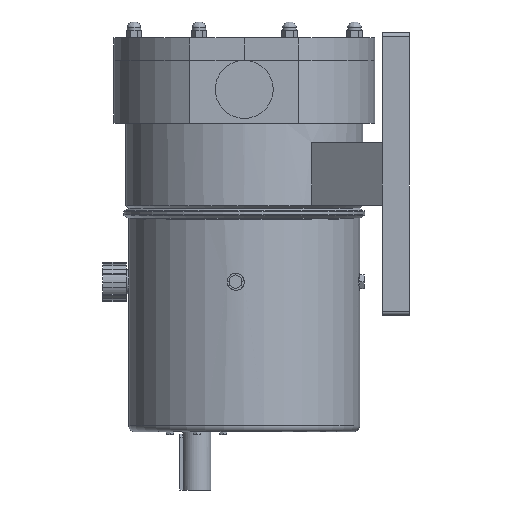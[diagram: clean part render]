
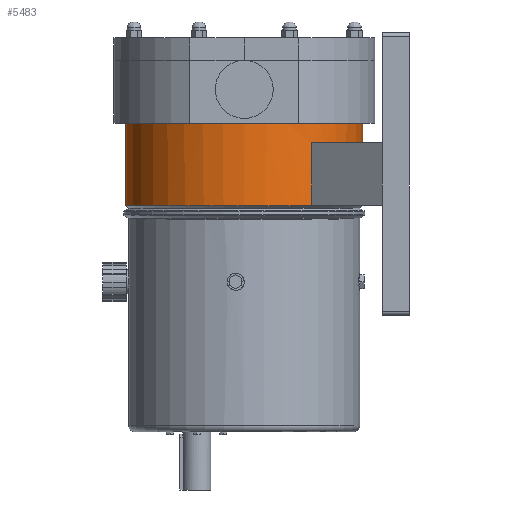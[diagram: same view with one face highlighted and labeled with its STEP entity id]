
A CAD part, left-side view. The second image highlights one B-rep face of the part: STEP entity #5483.
In plain terms, the highlighted cylindrical face has radius 210 mm (diameter 420 mm), a full revolution.
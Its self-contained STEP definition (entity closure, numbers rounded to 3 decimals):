
#126=CYLINDRICAL_SURFACE('',#5889,210.);
#175=FACE_BOUND('',#599,.T.);
#176=FACE_BOUND('',#600,.T.);
#265=FACE_OUTER_BOUND('',#598,.T.);
#598=EDGE_LOOP('',(#3968,#3969,#3970,#3971,#3972,#3973,#3974,#3975,#3976));
#599=EDGE_LOOP('',(#3977,#3978,#3979,#3980));
#600=EDGE_LOOP('',(#3981,#3982,#3983,#3984));
#1051=LINE('',#8645,#1626);
#1052=LINE('',#8650,#1627);
#1053=LINE('',#8653,#1628);
#1054=LINE('',#8658,#1629);
#1055=LINE('',#8661,#1630);
#1626=VECTOR('',#6742,210.);
#1627=VECTOR('',#6745,110.);
#1628=VECTOR('',#6748,110.);
#1629=VECTOR('',#6751,110.);
#1630=VECTOR('',#6754,110.);
#2068=CIRCLE('',#5864,210.);
#2069=CIRCLE('',#5868,210.);
#2071=CIRCLE('',#5873,210.);
#2077=CIRCLE('',#5880,210.);
#2078=CIRCLE('',#5881,210.);
#2083=CIRCLE('',#5890,210.);
#2084=CIRCLE('',#5891,210.);
#2085=CIRCLE('',#5892,210.);
#2086=CIRCLE('',#5893,210.);
#2087=CIRCLE('',#5894,210.);
#2088=CIRCLE('',#5895,210.);
#2399=VERTEX_POINT('',#8521);
#2400=VERTEX_POINT('',#8522);
#2408=VERTEX_POINT('',#8546);
#2409=VERTEX_POINT('',#8547);
#2421=VERTEX_POINT('',#8604);
#2426=VERTEX_POINT('',#8641);
#2427=VERTEX_POINT('',#8642);
#2428=VERTEX_POINT('',#8646);
#2429=VERTEX_POINT('',#8647);
#2430=VERTEX_POINT('',#8649);
#2431=VERTEX_POINT('',#8651);
#2432=VERTEX_POINT('',#8654);
#2433=VERTEX_POINT('',#8655);
#2434=VERTEX_POINT('',#8657);
#2435=VERTEX_POINT('',#8659);
#2964=EDGE_CURVE('',#2399,#2400,#2068,.T.);
#2974=EDGE_CURVE('',#2408,#2409,#2069,.T.);
#2987=EDGE_CURVE('',#2400,#2408,#2071,.T.);
#2996=EDGE_CURVE('',#2409,#2421,#2077,.T.);
#2997=EDGE_CURVE('',#2421,#2399,#2078,.T.);
#3008=EDGE_CURVE('',#2426,#2427,#2083,.T.);
#3009=EDGE_CURVE('',#2427,#2426,#2084,.T.);
#3010=EDGE_CURVE('',#2427,#2421,#1051,.T.);
#3011=EDGE_CURVE('',#2428,#2429,#2085,.T.);
#3012=EDGE_CURVE('',#2429,#2430,#1052,.T.);
#3013=EDGE_CURVE('',#2430,#2431,#2086,.T.);
#3014=EDGE_CURVE('',#2431,#2428,#1053,.T.);
#3015=EDGE_CURVE('',#2432,#2433,#2087,.T.);
#3016=EDGE_CURVE('',#2433,#2434,#1054,.T.);
#3017=EDGE_CURVE('',#2434,#2435,#2088,.T.);
#3018=EDGE_CURVE('',#2435,#2432,#1055,.T.);
#3968=ORIENTED_EDGE('',*,*,#3008,.F.);
#3969=ORIENTED_EDGE('',*,*,#3009,.F.);
#3970=ORIENTED_EDGE('',*,*,#3010,.T.);
#3971=ORIENTED_EDGE('',*,*,#2996,.F.);
#3972=ORIENTED_EDGE('',*,*,#2974,.F.);
#3973=ORIENTED_EDGE('',*,*,#2987,.F.);
#3974=ORIENTED_EDGE('',*,*,#2964,.F.);
#3975=ORIENTED_EDGE('',*,*,#2997,.F.);
#3976=ORIENTED_EDGE('',*,*,#3010,.F.);
#3977=ORIENTED_EDGE('',*,*,#3011,.T.);
#3978=ORIENTED_EDGE('',*,*,#3012,.T.);
#3979=ORIENTED_EDGE('',*,*,#3013,.T.);
#3980=ORIENTED_EDGE('',*,*,#3014,.T.);
#3981=ORIENTED_EDGE('',*,*,#3015,.T.);
#3982=ORIENTED_EDGE('',*,*,#3016,.T.);
#3983=ORIENTED_EDGE('',*,*,#3017,.T.);
#3984=ORIENTED_EDGE('',*,*,#3018,.T.);
#5483=ADVANCED_FACE('',(#265,#175,#176),#126,.T.);
#5864=AXIS2_PLACEMENT_3D('',#8523,#6659,#6660);
#5868=AXIS2_PLACEMENT_3D('',#8548,#6675,#6676);
#5873=AXIS2_PLACEMENT_3D('',#8591,#6695,#6696);
#5880=AXIS2_PLACEMENT_3D('',#8605,#6712,#6713);
#5881=AXIS2_PLACEMENT_3D('',#8606,#6714,#6715);
#5889=AXIS2_PLACEMENT_3D('',#8640,#6736,#6737);
#5890=AXIS2_PLACEMENT_3D('',#8643,#6738,#6739);
#5891=AXIS2_PLACEMENT_3D('',#8644,#6740,#6741);
#5892=AXIS2_PLACEMENT_3D('',#8648,#6743,#6744);
#5893=AXIS2_PLACEMENT_3D('',#8652,#6746,#6747);
#5894=AXIS2_PLACEMENT_3D('',#8656,#6749,#6750);
#5895=AXIS2_PLACEMENT_3D('',#8660,#6752,#6753);
#6659=DIRECTION('center_axis',(0.,0.,1.));
#6660=DIRECTION('ref_axis',(0.,1.,0.));
#6675=DIRECTION('center_axis',(0.,0.,1.));
#6676=DIRECTION('ref_axis',(0.,1.,0.));
#6695=DIRECTION('center_axis',(0.,0.,1.));
#6696=DIRECTION('ref_axis',(0.,1.,0.));
#6712=DIRECTION('center_axis',(0.,0.,1.));
#6713=DIRECTION('ref_axis',(0.,1.,0.));
#6714=DIRECTION('center_axis',(0.,0.,1.));
#6715=DIRECTION('ref_axis',(0.,1.,0.));
#6736=DIRECTION('center_axis',(0.,0.,-1.));
#6737=DIRECTION('ref_axis',(0.,1.,0.));
#6738=DIRECTION('center_axis',(0.,0.,-1.));
#6739=DIRECTION('ref_axis',(0.,1.,0.));
#6740=DIRECTION('center_axis',(0.,0.,-1.));
#6741=DIRECTION('ref_axis',(0.,1.,0.));
#6742=DIRECTION('',(0.,0.,1.));
#6743=DIRECTION('center_axis',(0.,0.,-1.));
#6744=DIRECTION('ref_axis',(0.,1.,0.));
#6745=DIRECTION('',(0.,0.,1.));
#6746=DIRECTION('center_axis',(0.,0.,1.));
#6747=DIRECTION('ref_axis',(0.,1.,0.));
#6748=DIRECTION('',(0.,0.,-1.));
#6749=DIRECTION('center_axis',(0.,0.,-1.));
#6750=DIRECTION('ref_axis',(0.,1.,0.));
#6751=DIRECTION('',(0.,0.,1.));
#6752=DIRECTION('center_axis',(0.,0.,1.));
#6753=DIRECTION('ref_axis',(0.,1.,0.));
#6754=DIRECTION('',(0.,0.,-1.));
#8521=CARTESIAN_POINT('',(209.99,-2.049,-150.8));
#8522=CARTESIAN_POINT('',(209.99,2.049,-150.8));
#8523=CARTESIAN_POINT('Origin',(0.,0.,-150.8));
#8546=CARTESIAN_POINT('',(-209.99,2.049,-150.8));
#8547=CARTESIAN_POINT('',(-209.99,-2.049,-150.8));
#8548=CARTESIAN_POINT('Origin',(0.,0.,-150.8));
#8591=CARTESIAN_POINT('Origin',(0.,0.,-150.8));
#8604=CARTESIAN_POINT('',(0.,-210.,-150.8));
#8605=CARTESIAN_POINT('Origin',(0.,0.,-150.8));
#8606=CARTESIAN_POINT('Origin',(0.,0.,-150.8));
#8640=CARTESIAN_POINT('Origin',(0.,0.,-223.993));
#8641=CARTESIAN_POINT('',(0.,210.,-297.186));
#8642=CARTESIAN_POINT('',(0.,-210.,-297.186));
#8643=CARTESIAN_POINT('Origin',(0.,0.,-297.186));
#8644=CARTESIAN_POINT('Origin',(0.,0.,-297.186));
#8645=CARTESIAN_POINT('',(0.,-210.,-223.993));
#8646=CARTESIAN_POINT('',(172.515,-119.744,-295.8));
#8647=CARTESIAN_POINT('',(108.55,-179.769,-295.8));
#8648=CARTESIAN_POINT('Origin',(0.,0.,-295.8));
#8649=CARTESIAN_POINT('',(108.55,-179.769,-185.8));
#8650=CARTESIAN_POINT('',(108.55,-179.769,-295.8));
#8651=CARTESIAN_POINT('',(172.515,-119.744,-185.8));
#8652=CARTESIAN_POINT('Origin',(0.,0.,-185.8));
#8653=CARTESIAN_POINT('',(172.515,-119.744,-185.8));
#8654=CARTESIAN_POINT('',(-108.55,-179.769,-295.8));
#8655=CARTESIAN_POINT('',(-172.515,-119.744,-295.8));
#8656=CARTESIAN_POINT('Origin',(0.,0.,-295.8));
#8657=CARTESIAN_POINT('',(-172.515,-119.744,-185.8));
#8658=CARTESIAN_POINT('',(-172.515,-119.744,-295.8));
#8659=CARTESIAN_POINT('',(-108.55,-179.769,-185.8));
#8660=CARTESIAN_POINT('Origin',(0.,0.,-185.8));
#8661=CARTESIAN_POINT('',(-108.55,-179.769,-185.8));
